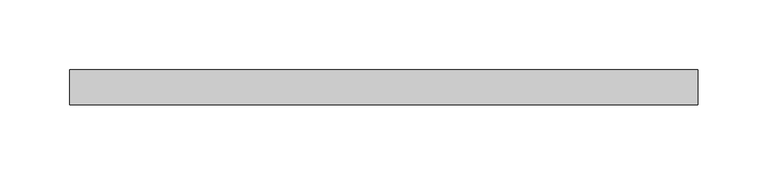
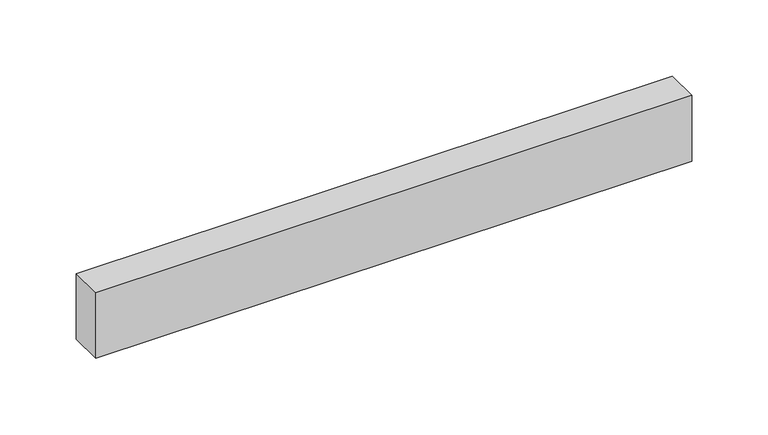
"""IFC4 building model written with IfcOpenShell, lengths in millimetres: plate geometry, Системная панель : С остеклением."""

from ifc_helpers import new_model, si_unit, origin, origin_with_axes, place, context, project, spatial, polyline, outline, extrude, source, transform, mapped, element, save


def plate_edc0c4ef(model_context):
    return source(origin(), model_context, "Body", "SweptSolid", [
        extrude(outline(polyline([(225.0, 24.5), (-225.0, 24.5), (-225.0, 49.5), (225.0, 49.5), (225.0, 24.5)])), origin_with_axes(), (0.0, 0.0, 1.0), 52.4004922),
    ])


if __name__ == "__main__":
    model = new_model("IFC4")
    model_context = context("Model", 3, world=origin())
    ifc_project = project(units=[si_unit("LENGTHUNIT", "METRE", prefix="MILLI")], contexts=[model_context])
    site = spatial("IfcSite", under=ifc_project)
    building = spatial("IfcBuilding", under=site)
    placement = place(None, origin())
    plate_shape = plate_edc0c4ef(model_context)
    element("IfcPlate", 1, ObjectType="Системная панель : С остеклением", at=placement, inside=building, context=model_context, shape_type="MappedRepresentation", body=[
        mapped(plate_shape, transform((0.0, 0.0, 0.0), x_axis=(1.0, 0.0, 0.0), y_axis=(0.0, 1.0, 0.0), z_axis=(0.0, 0.0, 1.0))),
    ])
    save(model, "model.ifc")
